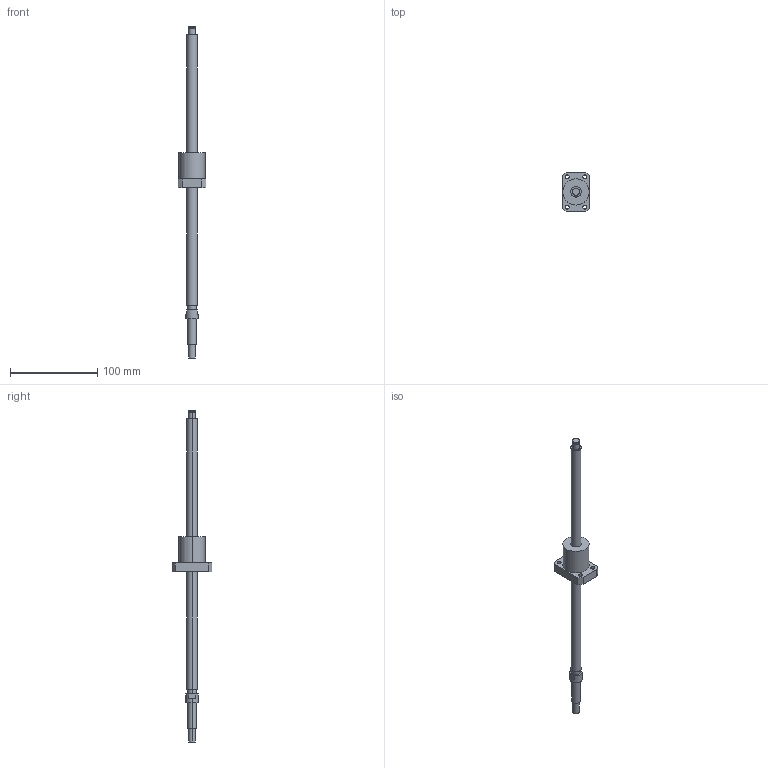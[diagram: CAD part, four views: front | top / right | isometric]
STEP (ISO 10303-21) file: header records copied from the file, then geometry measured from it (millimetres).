
FILE_DESCRIPTION((''),'2;1');
FILE_NAME('R12-5B1-FSW-310-380','2008-03-28T',('mahdi'),(''),'PRO/ENGINEER BY PARAMETRIC TECHNOLOGY CORPORATION, 2005070','PRO/ENGINEER BY PARAMETRIC TECHNOLOGY CORPORATION, 2005070','');
FILE_SCHEMA(('CONFIG_CONTROL_DESIGN'));
Length unit declared in the file: millimetre
Products named in the file (1): R12-5B1-FSW-310-380
Bounding box: 32 x 45 x 380 mm (x, y, z)
Volume: 70103.6 mm3; surface area: 20217.9 mm2
Topology: 1 solids, 1 shells, 64 faces, 144 edges, 96 vertices
Faces by surface type: cylinder 40, plane 24
Entity records: 1886 total; most frequent: DIRECTION 356, CARTESIAN_POINT 304, ORIENTED_EDGE 288, AXIS2_PLACEMENT_3D 148, EDGE_CURVE 144, VERTEX_POINT 96, EDGE_LOOP 86, CIRCLE 84
